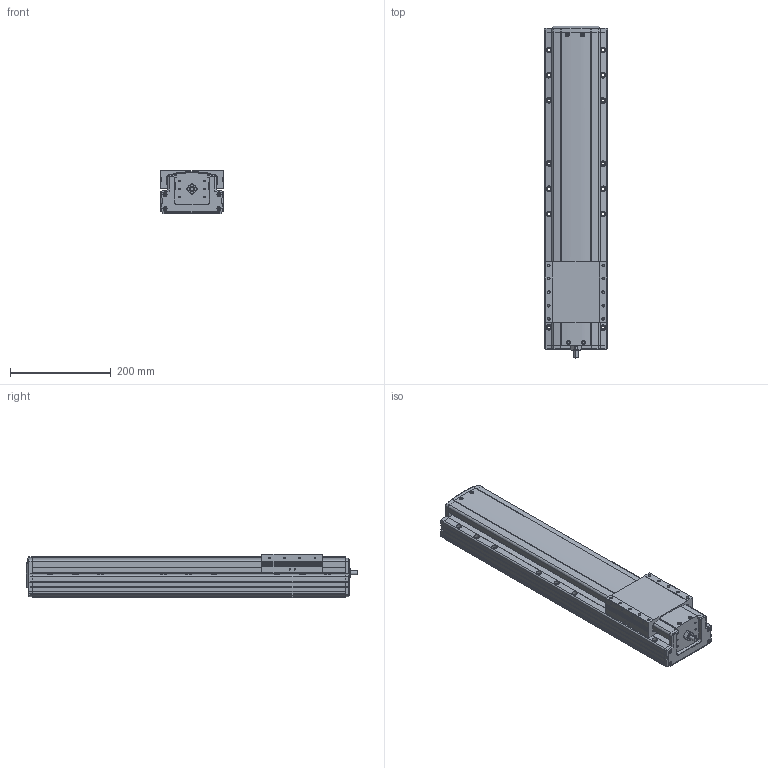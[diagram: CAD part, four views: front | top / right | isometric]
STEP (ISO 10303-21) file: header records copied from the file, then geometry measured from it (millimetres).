
FILE_DESCRIPTION(('STEP AP214'),'1');
FILE_NAME('Z:/Web/3D/PSA125/STP/PSA125-400 (3D)/PSA125ㅁㅁ-400.stp','2014-06-22T23:51:32',(' '),(' '),'Spatial InterOp 3D',' ',' ');
FILE_SCHEMA(('automotive_design'));
Length unit declared in the file: millimetre
Products named in the file (18): 스크루 : Round - M4.0 x 10.0; RRCV-PA120; SLIDE; BASE; FRCV-PA120-1(기준 뿔 제거); RR1500; 스크루 : Round - M4.0 x 6.0; 너트 : Square - M10.0 x 220.7419
Bounding box: 125 x 658.1 x 86 mm (x, y, z)
Volume: 5383352.9 mm3; surface area: 463282.5 mm2
Topology: 18 solids, 18 shells, 1846 faces, 4981 edges, 3174 vertices
Faces by surface type: plane 1010, cylinder 552, cone 196, sphere 32, bspline 31, torus 25
Entity records: 74355 total; most frequent: CARTESIAN_POINT 12679, DIRECTION 9755, ORIENTED_EDGE 9726, EDGE_CURVE 4863, LINE 3309, VECTOR 3309, AXIS2_PLACEMENT_3D 3223, VERTEX_POINT 3174
